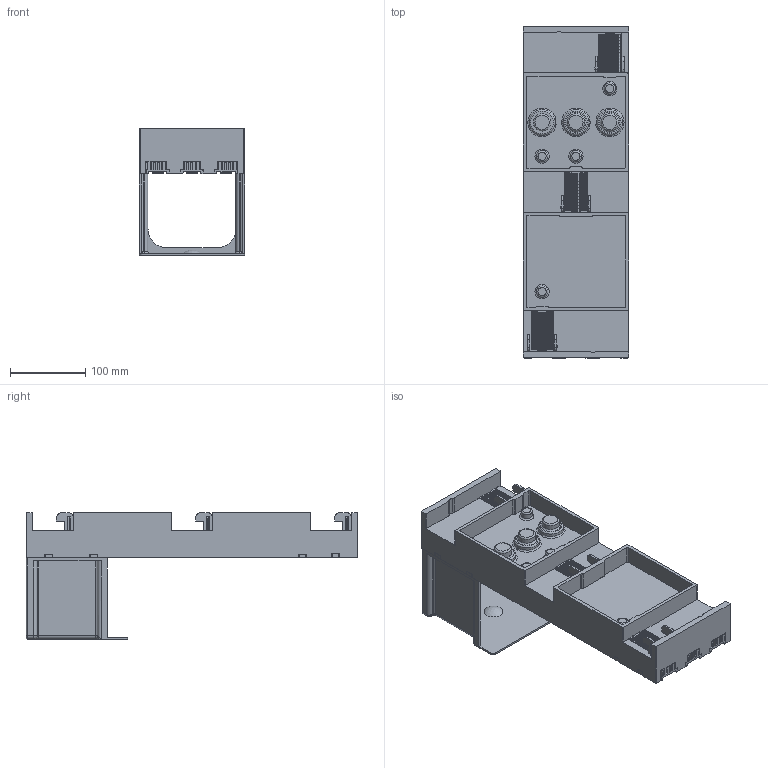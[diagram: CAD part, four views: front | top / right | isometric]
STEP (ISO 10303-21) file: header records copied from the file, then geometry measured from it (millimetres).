
FILE_DESCRIPTION (( 'STEP AP203' ), '1' );
FILE_NAME ('55041.STEP', '2021-09-01T05:32:05', ( '' ), ( '' ), 'SwSTEP 2.0', 'SolidWorks 2017', '' );
FILE_SCHEMA (( 'CONFIG_CONTROL_DESIGN' ));
Products named in the file (2): 55041
Bounding box: 140.2 x 441.5 x 168 mm (x, y, z)
Volume: 2423795.1 mm3; surface area: 370956.8 mm2
Topology: 2 solids, 70 shells, 2426 faces, 6504 edges, 4286 vertices
Faces by surface type: plane 1792, cylinder 389, bspline 179, torus 42, cone 18, sphere 6
Full cylindrical faces by diameter (mm): 3.2 x11, 5.5 x8, 9 x15, 10.5 x1, 11.5 x6, 14 x8, 15 x4, 23 x6, 34 x3
Entity records: 89795 total; most frequent: CARTESIAN_POINT 31041, ORIENTED_EDGE 12654, DIRECTION 10867, EDGE_CURVE 6327, VECTOR 4983, LINE 4983, VERTEX_POINT 4242, AXIS2_PLACEMENT_3D 2942
